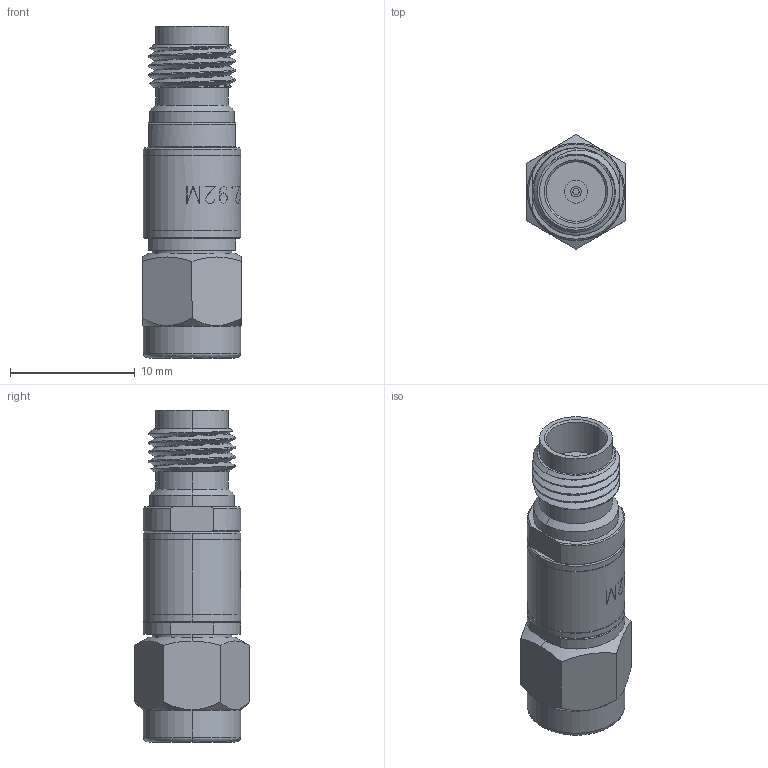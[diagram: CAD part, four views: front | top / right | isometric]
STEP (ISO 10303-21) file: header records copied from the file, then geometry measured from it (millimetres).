
FILE_DESCRIPTION (( 'STEP AP203' ), '1' );
FILE_NAME ('2234000K001-833-Cst.STEP', '2020-10-29T19:53:02', ( '' ), ( '' ), 'SwSTEP 2.0', 'SolidWorks 2019', '' );
FILE_SCHEMA (( 'CONFIG_CONTROL_DESIGN' ));
Length unit declared in the file: inch
Products named in the file (1): 2234000K001-833-Cst
Bounding box: 7.92 x 9.15 x 26.58 mm (x, y, z)
Volume: 959.5 mm3; surface area: 1292.4 mm2
Topology: 1 solids, 1 shells, 417 faces, 1114 edges, 732 vertices
Faces by surface type: bspline 171, plane 125, cylinder 89, cone 32
Entity records: 17518 total; most frequent: CARTESIAN_POINT 8162, ORIENTED_EDGE 2224, DIRECTION 1437, EDGE_CURVE 1112, VERTEX_POINT 732, AXIS2_PLACEMENT_3D 492, EDGE_LOOP 454, VECTOR 453
